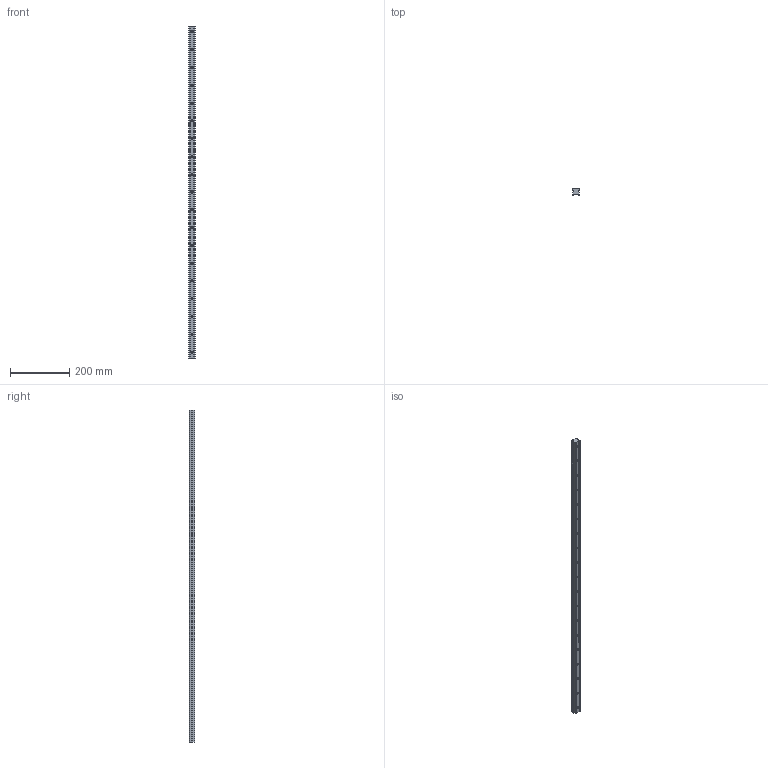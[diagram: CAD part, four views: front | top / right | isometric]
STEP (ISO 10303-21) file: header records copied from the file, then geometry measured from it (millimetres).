
FILE_DESCRIPTION (( 'STEP AP203' ), '1' );
FILE_NAME ('L1016.BL25-1120.step', '2019-06-12T12:06:44', ( '' ), ( '' ), 'SwSTEP 2.0', 'SolidWorks 2017', '' );
FILE_SCHEMA (( 'CONFIG_CONTROL_DESIGN' ));
Length unit declared in the file: millimetre
Products named in the file (1): L1016.BL25-1120
Bounding box: 23 x 19.2 x 1120 mm (x, y, z)
Volume: 412486.5 mm3; surface area: 106542.6 mm2
Topology: 1 solids, 1 shells, 121 faces, 300 edges, 200 vertices
Faces by surface type: cylinder 80, plane 41
Entity records: 3827 total; most frequent: DIRECTION 704, CARTESIAN_POINT 622, ORIENTED_EDGE 600, EDGE_CURVE 300, AXIS2_PLACEMENT_3D 282, VERTEX_POINT 200, EDGE_LOOP 178, CIRCLE 160
